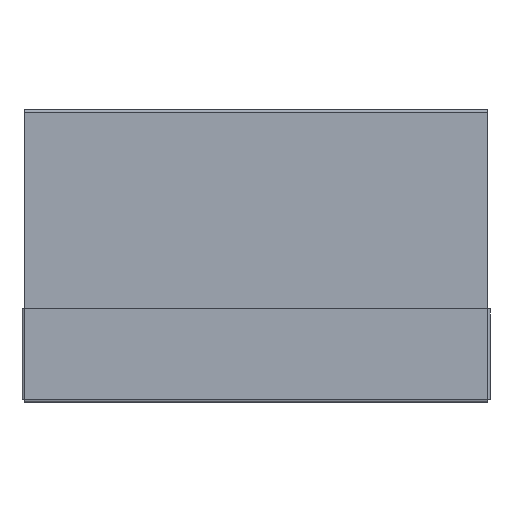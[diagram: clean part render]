
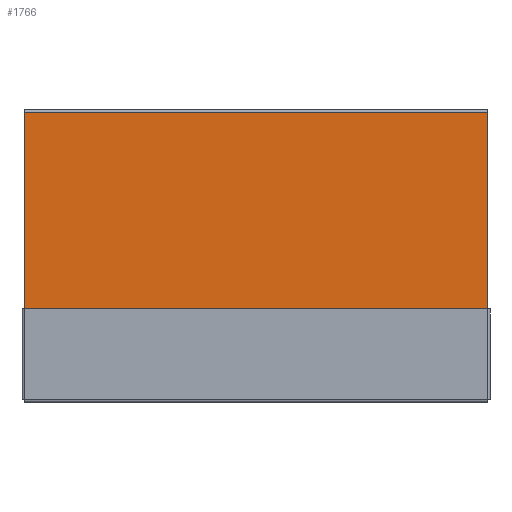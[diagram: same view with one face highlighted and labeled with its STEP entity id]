
A CAD part, top view. The second image highlights one B-rep face of the part: STEP entity #1766.
In plain terms, the highlighted planar face has unit normal (0, 0, 1).
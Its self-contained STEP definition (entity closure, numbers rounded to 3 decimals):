
#74 = DIRECTION ( 'NONE',  ( 1., 0., 0. ) ) ;
#92 = EDGE_LOOP ( 'NONE', ( #668, #4288, #2110, #2780 ) ) ;
#221 = CIRCLE ( 'NONE', #3351, 3.5 ) ;
#332 = EDGE_CURVE ( 'NONE', #2438, #1488, #3725, .T. ) ;
#442 = FACE_BOUND ( 'NONE', #2150, .T. ) ;
#464 = DIRECTION ( 'NONE',  ( 1., 0., 0. ) ) ;
#472 = LINE ( 'NONE', #3859, #3587 ) ;
#479 = EDGE_CURVE ( 'NONE', #852, #4007, #2566, .T. ) ;
#527 = CIRCLE ( 'NONE', #1158, 3.5 ) ;
#610 = CARTESIAN_POINT ( 'NONE',  ( 169.5, -100., 0. ) ) ;
#668 = ORIENTED_EDGE ( 'NONE', *, *, #2364, .T. ) ;
#669 = DIRECTION ( 'NONE',  ( -1., 0., 0. ) ) ;
#721 = DIRECTION ( 'NONE',  ( 0., 0., 1. ) ) ;
#755 = VERTEX_POINT ( 'NONE', #3697 ) ;
#787 = CIRCLE ( 'NONE', #3355, 3.5 ) ;
#852 = VERTEX_POINT ( 'NONE', #4118 ) ;
#866 = CARTESIAN_POINT ( 'NONE',  ( -176.5, -100., 0. ) ) ;
#943 = LINE ( 'NONE', #2287, #2415 ) ;
#1146 = DIRECTION ( 'NONE',  ( 0., 0., 1. ) ) ;
#1158 = AXIS2_PLACEMENT_3D ( 'NONE', #3148, #721, #74 ) ;
#1178 = CARTESIAN_POINT ( 'NONE',  ( -198., 123., 0. ) ) ;
#1301 = DIRECTION ( 'NONE',  ( 0., 0., 1. ) ) ;
#1331 = CARTESIAN_POINT ( 'NONE',  ( 198., 123., 0. ) ) ;
#1386 = EDGE_CURVE ( 'NONE', #1883, #2438, #472, .T. ) ;
#1488 = VERTEX_POINT ( 'NONE', #1178 ) ;
#1564 = DIRECTION ( 'NONE',  ( 0., 1., 0. ) ) ;
#1624 = DIRECTION ( 'NONE',  ( 0., 0., 1. ) ) ;
#1638 = ORIENTED_EDGE ( 'NONE', *, *, #3422, .F. ) ;
#1766 = ADVANCED_FACE ( 'NONE', ( #442, #3184, #2485 ), #4171, .T. ) ;
#1883 = VERTEX_POINT ( 'NONE', #3875 ) ;
#2070 = CARTESIAN_POINT ( 'NONE',  ( 198., 123., 0. ) ) ;
#2110 = ORIENTED_EDGE ( 'NONE', *, *, #1386, .T. ) ;
#2150 = EDGE_LOOP ( 'NONE', ( #1638, #3447 ) ) ;
#2261 = ORIENTED_EDGE ( 'NONE', *, *, #3636, .F. ) ;
#2287 = CARTESIAN_POINT ( 'NONE',  ( -198., -125., 0. ) ) ;
#2348 = AXIS2_PLACEMENT_3D ( 'NONE', #3579, #3538, #464 ) ;
#2364 = EDGE_CURVE ( 'NONE', #1488, #3386, #943, .T. ) ;
#2415 = VECTOR ( 'NONE', #2639, 1000. ) ;
#2438 = VERTEX_POINT ( 'NONE', #1331 ) ;
#2485 = FACE_OUTER_BOUND ( 'NONE', #92, .T. ) ;
#2566 = CIRCLE ( 'NONE', #3001, 3.5 ) ;
#2597 = VERTEX_POINT ( 'NONE', #610 ) ;
#2639 = DIRECTION ( 'NONE',  ( 0., -1., 0. ) ) ;
#2665 = CARTESIAN_POINT ( 'NONE',  ( 173., -100., 0. ) ) ;
#2780 = ORIENTED_EDGE ( 'NONE', *, *, #332, .T. ) ;
#2817 = DIRECTION ( 'NONE',  ( 1., 0., 0. ) ) ;
#2903 = CARTESIAN_POINT ( 'NONE',  ( 198., -123., 0. ) ) ;
#2928 = DIRECTION ( 'NONE',  ( -1., 0., 0. ) ) ;
#3001 = AXIS2_PLACEMENT_3D ( 'NONE', #3200, #1146, #2817 ) ;
#3016 = EDGE_CURVE ( 'NONE', #755, #2597, #221, .T. ) ;
#3148 = CARTESIAN_POINT ( 'NONE',  ( -173., -100., 0. ) ) ;
#3184 = FACE_BOUND ( 'NONE', #3543, .T. ) ;
#3200 = CARTESIAN_POINT ( 'NONE',  ( -173., -100., 0. ) ) ;
#3286 = CARTESIAN_POINT ( 'NONE',  ( -198., -123., 0. ) ) ;
#3351 = AXIS2_PLACEMENT_3D ( 'NONE', #4367, #1301, #4408 ) ;
#3355 = AXIS2_PLACEMENT_3D ( 'NONE', #2665, #1624, #4036 ) ;
#3386 = VERTEX_POINT ( 'NONE', #3286 ) ;
#3422 = EDGE_CURVE ( 'NONE', #2597, #755, #787, .T. ) ;
#3447 = ORIENTED_EDGE ( 'NONE', *, *, #3016, .F. ) ;
#3538 = DIRECTION ( 'NONE',  ( 0., 0., 1. ) ) ;
#3543 = EDGE_LOOP ( 'NONE', ( #2261, #4315 ) ) ;
#3560 = VECTOR ( 'NONE', #669, 1000. ) ;
#3579 = CARTESIAN_POINT ( 'NONE',  ( 0., 0., 0. ) ) ;
#3587 = VECTOR ( 'NONE', #1564, 1000. ) ;
#3636 = EDGE_CURVE ( 'NONE', #4007, #852, #527, .T. ) ;
#3697 = CARTESIAN_POINT ( 'NONE',  ( 176.5, -100., 0. ) ) ;
#3725 = LINE ( 'NONE', #2070, #3560 ) ;
#3798 = EDGE_CURVE ( 'NONE', #1883, #3386, #4324, .T. ) ;
#3859 = CARTESIAN_POINT ( 'NONE',  ( 198., -125., 0. ) ) ;
#3870 = VECTOR ( 'NONE', #2928, 1000. ) ;
#3875 = CARTESIAN_POINT ( 'NONE',  ( 198., -123., 0. ) ) ;
#4007 = VERTEX_POINT ( 'NONE', #866 ) ;
#4036 = DIRECTION ( 'NONE',  ( 1., 0., 0. ) ) ;
#4118 = CARTESIAN_POINT ( 'NONE',  ( -169.5, -100., 0. ) ) ;
#4171 = PLANE ( 'NONE',  #2348 ) ;
#4288 = ORIENTED_EDGE ( 'NONE', *, *, #3798, .F. ) ;
#4315 = ORIENTED_EDGE ( 'NONE', *, *, #479, .F. ) ;
#4324 = LINE ( 'NONE', #2903, #3870 ) ;
#4367 = CARTESIAN_POINT ( 'NONE',  ( 173., -100., 0. ) ) ;
#4408 = DIRECTION ( 'NONE',  ( 1., 0., 0. ) ) ;
